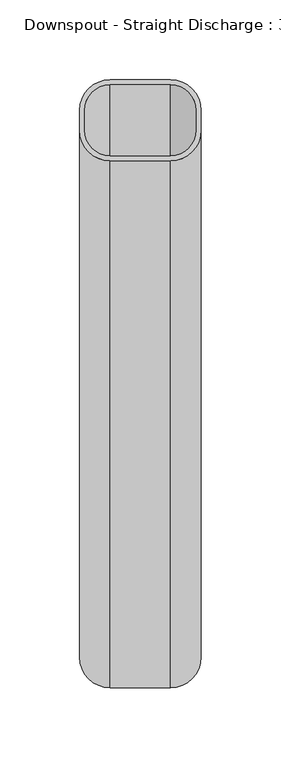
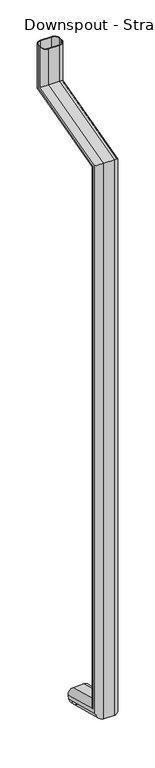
"""IFC4 building model written with IfcOpenShell, lengths in millimetres: proxy geometry."""

from ifc_helpers import new_model, si_unit, frame, origin, place, context, project, spatial, polyline, circle_curve, ellipse_curve, source, transform, mapped, element, save
from ifc_brep_helpers import plane_surface, cylinder_surface, revolved_surface, advanced_brep


def proxy_fda262e5(model_context):
    return source(origin(), model_context, "Body", "AdvancedBrep", [
        advanced_brep(
        [(38.1, 353.9564991, 146.266371), (19.05, 349.0259963, 127.865484), (-19.05, 349.0259963, 127.865484), (-38.1, 353.9564991, 146.266371), (-38.1, 357.2435009, 158.533629), (-19.05, 362.1740037, 176.934516), (19.05, 362.1740037, 176.934516), (38.1, 357.2435009, 158.533629), (34.925, 353.9564991, 146.266371), (34.925, 357.2435009, 158.533629), (19.05, 361.3522533, 173.8677015), (-19.05, 361.3522533, 173.8677015), (-34.925, 357.2435009, 158.533629), (-34.925, 353.9564991, 146.266371), (-19.05, 349.8477467, 130.9322985), (19.05, 349.8477467, 130.9322985), (19.05, 177.8, 173.7453514), (38.1, 196.85, 188.3629306), (38.1, 196.85, 2202.395703), (19.05, 177.8, 2217.0132822), (-19.05, 177.8, 173.7453514), (-19.05, 177.8, 2217.0132822), (-38.1, 196.85, 188.3629306), (-38.1, 196.85, 2202.395703), (-19.05, 228.6, 212.7255624), (-38.1, 209.55, 198.1079833), (-38.1, 209.55, 2192.6506503), (-19.05, 228.6, 2178.0330712), (19.05, 228.6, 212.7255624), (19.05, 228.6, 2178.0330712), (38.1, 209.55, 198.1079833), (38.1, 209.55, 2192.6506503), (19.05, 225.425, 210.2892992), (34.925, 209.55, 198.1079833), (34.925, 209.55, 2192.6506503), (19.05, 225.425, 2180.4693344), (-19.05, 225.425, 210.2892992), (-19.05, 225.425, 2180.4693344), (-34.925, 209.55, 198.1079833), (-34.925, 209.55, 2192.6506503), (-19.05, 180.975, 176.1816146), (-34.925, 196.85, 188.3629306), (-34.925, 196.85, 2202.395703), (-19.05, 180.975, 2214.577019), (19.05, 180.975, 176.1816146), (19.05, 180.975, 2214.577019), (34.925, 196.85, 188.3629306), (34.925, 196.85, 2202.395703), (38.1, 527.05, 2290.8725264), (19.05, 508.0, 2305.4901055), (-19.05, 508.0, 2305.4901055), (-38.1, 527.05, 2290.8725264), (-38.1, 539.75, 2281.1274736), (-19.05, 558.8, 2266.5098945), (19.05, 558.8, 2266.5098945), (38.1, 539.75, 2281.1274736), (34.925, 539.75, 2281.1274736), (19.05, 555.625, 2268.9461577), (-19.05, 555.625, 2268.9461577), (-34.925, 539.75, 2281.1274736), (-34.925, 527.05, 2290.8725264), (-19.05, 511.175, 2303.0538423), (19.05, 511.175, 2303.0538423), (34.925, 527.05, 2290.8725264), (38.1, 527.05, 2438.4), (38.1, 539.75, 2438.4), (19.05, 558.8, 2438.4), (-19.05, 558.8, 2438.4), (-38.1, 539.75, 2438.4), (-38.1, 527.05, 2438.4), (-19.05, 508.0, 2438.4), (19.05, 508.0, 2438.4), (34.925, 527.05, 2438.4), (19.05, 511.175, 2438.4), (-19.05, 511.175, 2438.4), (-34.925, 527.05, 2438.4), (-34.925, 539.75, 2438.4), (-19.05, 555.625, 2438.4), (19.05, 555.625, 2438.4), (34.925, 539.75, 2438.4)],
        [
            (0, 1, circle_curve(frame((19.05, 353.9564991, 146.266371), z_axis=(0.0, 0.9659258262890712, -0.25881904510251), x_axis=(0.0, -0.25881904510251, -0.9659258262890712)), 19.05)),
            (1, 2),
            (2, 3, circle_curve(frame((-19.05, 353.9564991, 146.266371), z_axis=(0.0, 0.9659258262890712, -0.25881904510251), x_axis=(0.0, -0.25881904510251, -0.9659258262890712)), 19.05)),
            (3, 4),
            (4, 5, circle_curve(frame((-19.05, 357.2435009, 158.533629), z_axis=(0.0, 0.9659258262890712, -0.25881904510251), x_axis=(0.0, -0.25881904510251, -0.9659258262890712)), 19.05)),
            (5, 6),
            (6, 7, circle_curve(frame((19.05, 357.2435009, 158.533629), z_axis=(0.0, 0.9659258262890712, -0.25881904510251), x_axis=(0.0, -0.25881904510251, -0.9659258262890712)), 19.05)),
            (7, 0),
            (8, 9),
            (9, 10, circle_curve(frame((19.05, 357.2435009, 158.533629), z_axis=(0.0, -0.9659258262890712, 0.25881904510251), x_axis=(0.0, -0.25881904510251, -0.9659258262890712)), 15.875)),
            (10, 11),
            (11, 12, circle_curve(frame((-19.05, 357.2435009, 158.533629), z_axis=(0.0, -0.9659258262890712, 0.25881904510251), x_axis=(0.0, -0.25881904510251, -0.9659258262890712)), 15.875)),
            (12, 13),
            (13, 14, circle_curve(frame((-19.05, 353.9564991, 146.266371), z_axis=(0.0, -0.9659258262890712, 0.25881904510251), x_axis=(0.0, -0.25881904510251, -0.9659258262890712)), 15.875)),
            (14, 15),
            (15, 8, circle_curve(frame((19.05, 353.9564991, 146.266371), z_axis=(0.0, -0.9659258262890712, 0.25881904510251), x_axis=(0.0, -0.25881904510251, -0.9659258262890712)), 15.875)),
            (16, 17, ellipse_curve(frame((19.05, 196.85, 188.3629306), z_axis=(0.0, -0.608761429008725, 0.7933533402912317), x_axis=(0.0, -0.7933533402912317, -0.6087614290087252)), 24.0119995, 19.05)),
            (17, 18),
            (18, 19, ellipse_curve(frame((19.05, 196.85, 2202.395703), z_axis=(0.0, -0.6087614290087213, -0.7933533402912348), x_axis=(0.0, 0.7933533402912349, -0.608761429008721)), 24.0119995, 19.05)),
            (19, 16),
            (20, 16),
            (19, 21),
            (21, 20),
            (22, 20, ellipse_curve(frame((-19.05, 196.85, 188.3629306), z_axis=(0.0, -0.608761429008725, 0.7933533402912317), x_axis=(0.0, -0.7933533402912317, -0.6087614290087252)), 24.0119995, 19.05)),
            (21, 23, ellipse_curve(frame((-19.05, 196.85, 2202.395703), z_axis=(0.0, -0.6087614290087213, -0.7933533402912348), x_axis=(0.0, 0.7933533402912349, -0.608761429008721)), 24.0119995, 19.05)),
            (23, 22),
            (24, 25, ellipse_curve(frame((-19.05, 209.55, 198.1079833), z_axis=(0.0, -0.608761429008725, 0.7933533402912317), x_axis=(0.0, -0.7933533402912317, -0.6087614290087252)), 24.0119995, 19.05)),
            (25, 26),
            (26, 27, ellipse_curve(frame((-19.05, 209.55, 2192.6506503), z_axis=(0.0, -0.6087614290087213, -0.7933533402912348), x_axis=(0.0, 0.7933533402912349, -0.608761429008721)), 24.0119995, 19.05)),
            (27, 24),
            (28, 24),
            (27, 29),
            (29, 28),
            (30, 28, ellipse_curve(frame((19.05, 209.55, 198.1079833), z_axis=(0.0, -0.608761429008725, 0.7933533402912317), x_axis=(0.0, -0.7933533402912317, -0.6087614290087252)), 24.0119995, 19.05)),
            (29, 31, ellipse_curve(frame((19.05, 209.55, 2192.6506503), z_axis=(0.0, -0.6087614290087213, -0.7933533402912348), x_axis=(0.0, 0.7933533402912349, -0.608761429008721)), 24.0119995, 19.05)),
            (31, 30),
            (32, 33, ellipse_curve(frame((19.05, 209.55, 198.1079833), z_axis=(0.0, 0.608761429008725, -0.7933533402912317), x_axis=(0.0, 0.7933533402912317, 0.6087614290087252)), 20.0099996, 15.875)),
            (33, 34),
            (34, 35, ellipse_curve(frame((19.05, 209.55, 2192.6506503), z_axis=(0.0, 0.6087614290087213, 0.7933533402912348), x_axis=(0.0, -0.7933533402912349, 0.608761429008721)), 20.0099996, 15.875)),
            (35, 32),
            (36, 32),
            (35, 37),
            (37, 36),
            (38, 36, ellipse_curve(frame((-19.05, 209.55, 198.1079833), z_axis=(0.0, 0.608761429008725, -0.7933533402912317), x_axis=(0.0, 0.7933533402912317, 0.6087614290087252)), 20.0099996, 15.875)),
            (37, 39, ellipse_curve(frame((-19.05, 209.55, 2192.6506503), z_axis=(0.0, 0.6087614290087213, 0.7933533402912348), x_axis=(0.0, -0.7933533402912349, 0.608761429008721)), 20.0099996, 15.875)),
            (39, 38),
            (40, 41, ellipse_curve(frame((-19.05, 196.85, 188.3629306), z_axis=(0.0, 0.608761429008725, -0.7933533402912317), x_axis=(0.0, 0.7933533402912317, 0.6087614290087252)), 20.0099996, 15.875)),
            (41, 42),
            (42, 43, ellipse_curve(frame((-19.05, 196.85, 2202.395703), z_axis=(0.0, 0.6087614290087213, 0.7933533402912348), x_axis=(0.0, -0.7933533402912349, 0.608761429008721)), 20.0099996, 15.875)),
            (43, 40),
            (44, 40),
            (43, 45),
            (45, 44),
            (46, 44, ellipse_curve(frame((19.05, 196.85, 188.3629306), z_axis=(0.0, 0.608761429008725, -0.7933533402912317), x_axis=(0.0, 0.7933533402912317, 0.6087614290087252)), 20.0099996, 15.875)),
            (45, 47, ellipse_curve(frame((19.05, 196.85, 2202.395703), z_axis=(0.0, 0.6087614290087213, 0.7933533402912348), x_axis=(0.0, -0.7933533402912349, 0.608761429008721)), 20.0099996, 15.875)),
            (47, 46),
            (18, 48),
            (48, 49, ellipse_curve(frame((19.05, 527.05, 2290.8725264), z_axis=(0.0, -0.6087614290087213, -0.7933533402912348), x_axis=(0.0, -0.7933533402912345, 0.6087614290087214)), 24.0119995, 19.05)),
            (49, 19),
            (49, 50),
            (50, 21),
            (50, 51, ellipse_curve(frame((-19.05, 527.05, 2290.8725264), z_axis=(0.0, -0.6087614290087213, -0.7933533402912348), x_axis=(0.0, -0.7933533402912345, 0.6087614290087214)), 24.0119995, 19.05)),
            (51, 23),
            (26, 52),
            (52, 53, ellipse_curve(frame((-19.05, 539.75, 2281.1274736), z_axis=(0.0, -0.6087614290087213, -0.7933533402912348), x_axis=(0.0, -0.7933533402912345, 0.6087614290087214)), 24.0119995, 19.05)),
            (53, 27),
            (53, 54),
            (54, 29),
            (54, 55, ellipse_curve(frame((19.05, 539.75, 2281.1274736), z_axis=(0.0, -0.6087614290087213, -0.7933533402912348), x_axis=(0.0, -0.7933533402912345, 0.6087614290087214)), 24.0119995, 19.05)),
            (55, 31),
            (34, 56),
            (56, 57, ellipse_curve(frame((19.05, 539.75, 2281.1274736), z_axis=(0.0, 0.6087614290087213, 0.7933533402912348), x_axis=(0.0, 0.7933533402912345, -0.6087614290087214)), 20.0099996, 15.875)),
            (57, 35),
            (57, 58),
            (58, 37),
            (58, 59, ellipse_curve(frame((-19.05, 539.75, 2281.1274736), z_axis=(0.0, 0.6087614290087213, 0.7933533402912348), x_axis=(0.0, 0.7933533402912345, -0.6087614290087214)), 20.0099996, 15.875)),
            (59, 39),
            (42, 60),
            (60, 61, ellipse_curve(frame((-19.05, 527.05, 2290.8725264), z_axis=(0.0, 0.6087614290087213, 0.7933533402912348), x_axis=(0.0, 0.7933533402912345, -0.6087614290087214)), 20.0099996, 15.875)),
            (61, 43),
            (61, 62),
            (62, 45),
            (62, 63, ellipse_curve(frame((19.05, 527.05, 2290.8725264), z_axis=(0.0, 0.6087614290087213, 0.7933533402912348), x_axis=(0.0, 0.7933533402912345, -0.6087614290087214)), 20.0099996, 15.875)),
            (63, 47),
            (64, 65),
            (65, 66, circle_curve(frame((19.05, 539.75, 2438.4), z_axis=(0.0, 0.0, 1.0), x_axis=(0.0, -1.0, 0.0)), 19.05)),
            (66, 67),
            (67, 68, circle_curve(frame((-19.05, 539.75, 2438.4), z_axis=(0.0, 0.0, 1.0), x_axis=(0.0, -1.0, 0.0)), 19.05)),
            (68, 69),
            (69, 70, circle_curve(frame((-19.05, 527.05, 2438.4), z_axis=(0.0, 0.0, 1.0), x_axis=(0.0, -1.0, 0.0)), 19.05)),
            (70, 71),
            (71, 64, circle_curve(frame((19.05, 527.05, 2438.4), z_axis=(0.0, 0.0, 1.0), x_axis=(0.0, -1.0, 0.0)), 19.05)),
            (72, 73, circle_curve(frame((19.05, 527.05, 2438.4), z_axis=(0.0, 0.0, -1.0), x_axis=(0.0, -1.0, 0.0)), 15.875)),
            (73, 74),
            (74, 75, circle_curve(frame((-19.05, 527.05, 2438.4), z_axis=(0.0, 0.0, -1.0), x_axis=(0.0, -1.0, 0.0)), 15.875)),
            (75, 76),
            (76, 77, circle_curve(frame((-19.05, 539.75, 2438.4), z_axis=(0.0, 0.0, -1.0), x_axis=(0.0, -1.0, 0.0)), 15.875)),
            (77, 78),
            (78, 79, circle_curve(frame((19.05, 539.75, 2438.4), z_axis=(0.0, 0.0, -1.0), x_axis=(0.0, -1.0, 0.0)), 15.875)),
            (79, 72),
            (48, 64),
            (71, 49),
            (70, 50),
            (69, 51),
            (52, 68),
            (67, 53),
            (66, 54),
            (65, 55),
            (56, 79),
            (78, 57),
            (77, 58),
            (76, 59),
            (60, 75),
            (74, 61),
            (73, 62),
            (72, 63),
            (0, 17),
            (16, 1),
            (20, 2),
            (22, 3),
            (25, 4),
            (24, 5),
            (28, 6),
            (30, 7),
            (8, 46),
            (33, 9),
            (32, 10),
            (36, 11),
            (38, 12),
            (41, 13),
            (40, 14),
            (44, 15),
        ],
        [
            plane_surface(frame((0.0, 355.6, 152.4), z_axis=(0.0, 0.9659258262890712, -0.25881904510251), x_axis=(1.0, 0.0, 0.0))),
            cylinder_surface(frame((19.05, 196.85, 193.2354569), z_axis=(0.0, 0.0, -1.0), x_axis=(0.0, -1.0, 0.0)), 19.05),
            plane_surface(frame((19.05, 177.8, 173.7453514), z_axis=(0.0, -1.0, 0.0), x_axis=(0.0, 0.0, 1.0))),
            cylinder_surface(frame((-19.05, 196.85, 193.2354569), z_axis=(0.0, 0.0, -1.0), x_axis=(0.0, -1.0, 0.0)), 19.05),
            cylinder_surface(frame((-19.05, 209.55, 193.2354569), z_axis=(0.0, 0.0, -1.0), x_axis=(0.0, -1.0, 0.0)), 19.05),
            plane_surface(frame((-19.05, 228.6, 212.7255624), z_axis=(0.0, 1.0, 0.0), x_axis=(0.0, 0.0, 1.0))),
            cylinder_surface(frame((19.05, 209.55, 193.2354569), z_axis=(0.0, 0.0, -1.0), x_axis=(0.0, -1.0, 0.0)), 19.05),
            revolved_surface(polyline([(19.05, 193.675, 2204.8319662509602), (19.05, 193.675, 185.92666734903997)]), (19.05, 209.55, 193.2354569), (0.0, 0.0, 1.0)),
            plane_surface(frame((19.05, 225.425, 210.2892992), z_axis=(0.0, -1.0, 0.0), x_axis=(0.0, 0.0, 1.0))),
            revolved_surface(polyline([(-19.05, 193.675, 2204.8319662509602), (-19.05, 193.675, 185.92666734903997)]), (-19.05, 209.55, 193.2354569), (0.0, 0.0, 1.0)),
            revolved_surface(polyline([(-19.05, 180.975, 2214.577019), (-19.05, 180.975, 176.1816146)]), (-19.05, 196.85, 193.2354569), (0.0, 0.0, 1.0)),
            plane_surface(frame((-19.05, 180.975, 176.1816146), z_axis=(0.0, 1.0, 0.0), x_axis=(0.0, 0.0, 1.0))),
            revolved_surface(polyline([(19.05, 180.975, 2214.577019), (19.05, 180.975, 176.1816146)]), (19.05, 196.85, 193.2354569), (0.0, 0.0, 1.0)),
            cylinder_surface(frame((19.05, 201.5564991, 2203.6568057), z_axis=(0.0, -0.9659258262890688, -0.2588190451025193), x_axis=(0.0, -0.2588190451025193, 0.9659258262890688)), 19.05),
            plane_surface(frame((19.05, 177.8, 2217.0132822), z_axis=(0.0, -0.2588190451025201, 0.9659258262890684), x_axis=(0.0, 0.9659258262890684, 0.2588190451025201))),
            cylinder_surface(frame((-19.05, 201.5564991, 2203.6568057), z_axis=(0.0, -0.9659258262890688, -0.2588190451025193), x_axis=(0.0, -0.2588190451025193, 0.9659258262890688)), 19.05),
            cylinder_surface(frame((-19.05, 204.8435009, 2191.3895477), z_axis=(0.0, -0.9659258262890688, -0.2588190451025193), x_axis=(0.0, -0.2588190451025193, 0.9659258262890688)), 19.05),
            plane_surface(frame((-19.05, 228.6, 2178.0330712), z_axis=(0.0, 0.25881904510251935, -0.9659258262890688), x_axis=(0.0, 0.9659258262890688, 0.25881904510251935))),
            cylinder_surface(frame((19.05, 204.8435009, 2191.3895477), z_axis=(0.0, -0.9659258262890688, -0.2588190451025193), x_axis=(0.0, -0.2588190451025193, 0.9659258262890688)), 19.05),
            revolved_surface(polyline([(19.05, 547.4074953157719, 2299.6143027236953), (19.05, 193.6749999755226, 2204.8319662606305)]), (19.05, 204.8435009, 2191.3895477), (0.0, 0.9659258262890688, 0.2588190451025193)),
            plane_surface(frame((19.05, 225.425, 2180.4693344), z_axis=(0.0, -0.2588190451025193, 0.9659258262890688), x_axis=(0.0, 0.9659258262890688, 0.2588190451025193))),
            revolved_surface(polyline([(-19.05, 547.4074953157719, 2299.6143027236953), (-19.05, 193.6749999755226, 2204.8319662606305)]), (-19.05, 204.8435009, 2191.3895477), (0.0, 0.9659258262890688, 0.2588190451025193)),
            revolved_surface(polyline([(-19.05, 534.7074953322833, 2309.359355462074), (-19.05, 180.97499996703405, 2214.57701899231)]), (-19.05, 201.5564991, 2203.6568057), (0.0, 0.9659258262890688, 0.2588190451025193)),
            plane_surface(frame((-19.05, 180.975, 2214.577019), z_axis=(0.0, 0.25881904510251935, -0.9659258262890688), x_axis=(0.0, 0.9659258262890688, 0.25881904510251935))),
            revolved_surface(polyline([(19.05, 534.7074953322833, 2309.359355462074), (19.05, 180.97499996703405, 2214.57701899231)]), (19.05, 201.5564991, 2203.6568057), (0.0, 0.9659258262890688, 0.2588190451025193)),
            plane_surface(frame((0.0, 533.4, 2438.4), z_axis=(0.0, 0.0, 1.0), x_axis=(1.0, 0.0, 0.0))),
            cylinder_surface(frame((19.05, 527.05, 2286.0), z_axis=(0.0, 0.0, -1.0), x_axis=(0.0, -1.0, 0.0)), 19.05),
            plane_surface(frame((19.05, 508.0, 2305.4901055), z_axis=(0.0, -1.0, 0.0), x_axis=(0.0, 0.0, 1.0))),
            cylinder_surface(frame((-19.05, 527.05, 2286.0), z_axis=(0.0, 0.0, -1.0), x_axis=(0.0, -1.0, 0.0)), 19.05),
            cylinder_surface(frame((-19.05, 539.75, 2286.0), z_axis=(0.0, 0.0, -1.0), x_axis=(0.0, -1.0, 0.0)), 19.05),
            plane_surface(frame((-19.05, 558.8, 2266.5098945), z_axis=(0.0, 1.0, 0.0), x_axis=(0.0, 0.0, 1.0))),
            cylinder_surface(frame((19.05, 539.75, 2286.0), z_axis=(0.0, 0.0, -1.0), x_axis=(0.0, -1.0, 0.0)), 19.05),
            revolved_surface(polyline([(19.05, 523.875, 2438.4), (19.05, 523.875, 2268.9461576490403)]), (19.05, 539.75, 2286.0), (0.0, 0.0, 1.0)),
            plane_surface(frame((19.05, 555.625, 2268.9461577), z_axis=(0.0, -1.0, 0.0), x_axis=(0.0, 0.0, 1.0))),
            revolved_surface(polyline([(-19.05, 523.875, 2438.4), (-19.05, 523.875, 2268.9461576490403)]), (-19.05, 539.75, 2286.0), (0.0, 0.0, 1.0)),
            revolved_surface(polyline([(-19.05, 511.17499999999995, 2438.4), (-19.05, 511.17499999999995, 2278.69121044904)]), (-19.05, 527.05, 2286.0), (0.0, 0.0, 1.0)),
            plane_surface(frame((-19.05, 511.175, 2303.0538423), z_axis=(0.0, 1.0, 0.0), x_axis=(0.0, 0.0, 1.0))),
            revolved_surface(polyline([(19.05, 511.17499999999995, 2438.4), (19.05, 511.17499999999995, 2278.69121044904)]), (19.05, 527.05, 2286.0), (0.0, 0.0, 1.0)),
            cylinder_surface(frame((19.05, 353.9564991, 146.266371), z_axis=(0.0, 0.9659258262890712, -0.25881904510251), x_axis=(0.0, -0.25881904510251, -0.9659258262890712)), 19.05),
            plane_surface(frame((19.05, 349.0259963, 127.865484), z_axis=(0.0, -0.25881904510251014, -0.9659258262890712), x_axis=(0.0, -0.9659258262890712, 0.25881904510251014))),
            cylinder_surface(frame((-19.05, 353.9564991, 146.266371), z_axis=(0.0, 0.9659258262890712, -0.25881904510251), x_axis=(0.0, -0.25881904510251, -0.9659258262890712)), 19.05),
            plane_surface(frame((-38.1, 353.9564991, 146.266371), z_axis=(-1.0000000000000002, 0.0, 0.0), x_axis=(0.0, -0.9659258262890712, 0.25881904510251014))),
            cylinder_surface(frame((-19.05, 357.2435009, 158.533629), z_axis=(0.0, 0.9659258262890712, -0.25881904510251), x_axis=(0.0, -0.25881904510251, -0.9659258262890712)), 19.05),
            plane_surface(frame((-19.05, 362.1740037, 176.934516), z_axis=(0.0, 0.25881904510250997, 0.9659258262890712), x_axis=(0.0, -0.9659258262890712, 0.25881904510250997))),
            cylinder_surface(frame((19.05, 357.2435009, 158.533629), z_axis=(0.0, 0.9659258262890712, -0.25881904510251), x_axis=(0.0, -0.25881904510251, -0.9659258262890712)), 19.05),
            plane_surface(frame((38.1, 357.2435009, 158.533629), z_axis=(1.0, 0.0, 0.0), x_axis=(0.0, -0.9659258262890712, 0.25881904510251))),
            plane_surface(frame((34.925, 353.9564991, 146.266371), z_axis=(-1.0000000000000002, 0.0, 0.0), x_axis=(0.0, -0.9659258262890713, 0.2588190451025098))),
            revolved_surface(polyline([(19.05, 193.67499998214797, 185.92666736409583), (19.05, 353.13474861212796, 143.19955649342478)]), (19.05, 357.2435009, 158.533629), (0.0, -0.9659258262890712, 0.25881904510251)),
            plane_surface(frame((19.05, 361.3522533, 173.8677015), z_axis=(0.0, -0.25881904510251, -0.9659258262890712), x_axis=(0.0, -0.9659258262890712, 0.25881904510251))),
            revolved_surface(polyline([(-19.05, 193.67499998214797, 185.92666736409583), (-19.05, 353.13474861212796, 143.19955649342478)]), (-19.05, 357.2435009, 158.533629), (0.0, -0.9659258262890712, 0.25881904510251)),
            plane_surface(frame((-34.925, 357.2435009, 158.533629), z_axis=(1.0, 0.0, 0.0), x_axis=(0.0, -0.9659258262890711, 0.25881904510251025))),
            revolved_surface(polyline([(-19.05, 180.97499997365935, 176.18161463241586), (-19.05, 349.84774675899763, 130.932298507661)]), (-19.05, 353.9564991, 146.266371), (0.0, -0.9659258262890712, 0.25881904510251)),
            plane_surface(frame((-19.05, 349.8477467, 130.9322985), z_axis=(0.0, 0.25881904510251, 0.9659258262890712), x_axis=(0.0, -0.9659258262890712, 0.25881904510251))),
            revolved_surface(polyline([(19.05, 180.97499997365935, 176.18161463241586), (19.05, 349.84774675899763, 130.932298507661)]), (19.05, 353.9564991, 146.266371), (0.0, -0.9659258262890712, 0.25881904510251)),
        ],
        [
            (0, [[1, 2, 3, 4, 5, 6, 7, 8], [9, 10, 11, 12, 13, 14, 15, 16]]),
            (1, [[17, 18, 19, 20]]),
            (2, [[21, -20, 22, 23]]),
            (3, [[24, -23, 25, 26]]),
            (4, [[27, 28, 29, 30]]),
            (5, [[31, -30, 32, 33]]),
            (6, [[34, -33, 35, 36]]),
            (7, [[37, 38, 39, 40]]),
            (8, [[41, -40, 42, 43]]),
            (9, [[44, -43, 45, 46]]),
            (10, [[47, 48, 49, 50]]),
            (11, [[51, -50, 52, 53]]),
            (12, [[54, -53, 55, 56]]),
            (13, [[-19, 57, 58, 59]]),
            (14, [[-22, -59, 60, 61]]),
            (15, [[-25, -61, 62, 63]]),
            (16, [[-29, 64, 65, 66]]),
            (17, [[-32, -66, 67, 68]]),
            (18, [[-35, -68, 69, 70]]),
            (19, [[-39, 71, 72, 73]]),
            (20, [[-42, -73, 74, 75]]),
            (21, [[-45, -75, 76, 77]]),
            (22, [[-49, 78, 79, 80]]),
            (23, [[-52, -80, 81, 82]]),
            (24, [[-55, -82, 83, 84]]),
            (25, [[85, 86, 87, 88, 89, 90, 91, 92], [93, 94, 95, 96, 97, 98, 99, 100]]),
            (26, [[-58, 101, -92, 102]]),
            (27, [[-60, -102, -91, 103]]),
            (28, [[-62, -103, -90, 104]]),
            (29, [[-65, 105, -88, 106]]),
            (30, [[-67, -106, -87, 107]]),
            (31, [[-69, -107, -86, 108]]),
            (32, [[-72, 109, -99, 110]]),
            (33, [[-74, -110, -98, 111]]),
            (34, [[-76, -111, -97, 112]]),
            (35, [[-79, 113, -95, 114]]),
            (36, [[-81, -114, -94, 115]]),
            (37, [[-83, -115, -93, 116]]),
            (38, [[-1, 117, -17, 118]]),
            (39, [[-2, -118, -21, 119]]),
            (40, [[-3, -119, -24, 120]]),
            (41, [[-4, -120, -26, -63, -104, -89, -105, -64, -28, 121]]),
            (42, [[-5, -121, -27, 122]]),
            (43, [[-6, -122, -31, 123]]),
            (44, [[-7, -123, -34, 124]]),
            (45, [[-8, -124, -36, -70, -108, -85, -101, -57, -18, -117]]),
            (46, [[-9, 125, -56, -84, -116, -100, -109, -71, -38, 126]]),
            (47, [[-10, -126, -37, 127]]),
            (48, [[-11, -127, -41, 128]]),
            (49, [[-12, -128, -44, 129]]),
            (50, [[-13, -129, -46, -77, -112, -96, -113, -78, -48, 130]]),
            (51, [[-14, -130, -47, 131]]),
            (52, [[-15, -131, -51, 132]]),
            (53, [[-16, -132, -54, -125]]),
        ],
    ),
    ])


if __name__ == "__main__":
    model = new_model("IFC4")
    model_context = context("Model", 3, world=origin())
    ifc_project = project(units=[si_unit("LENGTHUNIT", "METRE", prefix="MILLI")], contexts=[model_context])
    site = spatial("IfcSite", under=ifc_project)
    building = spatial("IfcBuilding", under=site)
    placement = place(None, origin())
    proxy_shape = proxy_fda262e5(model_context)
    element("IfcBuildingElementProxy", 1, Name="Downspout - Straight Discharge : 3\" x 2\" A", ObjectType="Downspout - Straight Discharge : 3\" x 2\" A", at=placement, inside=building, context=model_context, shape_type="MappedRepresentation", body=[
        mapped(proxy_shape, transform((0.0, 0.0, 0.0), x_axis=(1.0, 0.0, 0.0), y_axis=(0.0, 1.0, 0.0), z_axis=(0.0, 0.0, 1.0))),
    ])
    save(model, "model.ifc")
